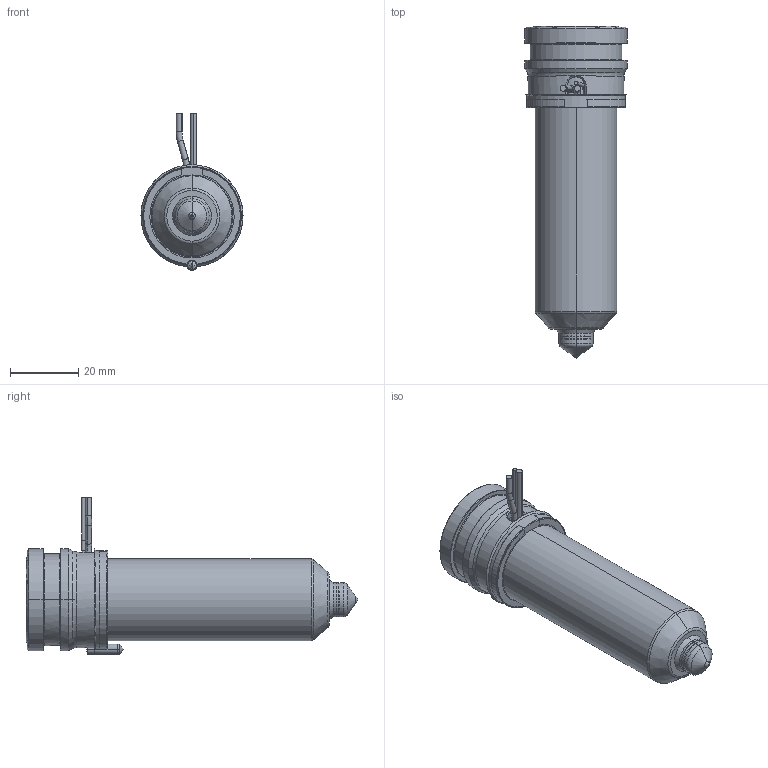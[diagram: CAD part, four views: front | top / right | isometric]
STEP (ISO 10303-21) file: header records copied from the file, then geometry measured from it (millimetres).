
FILE_DESCRIPTION((''),'2;1');
FILE_NAME('MPN-10-29-TX10-076-A','2026-02-11T11:16:55',('UVRWS'),('Thermoplay S.p.A.'),'CREO PARAMETRIC BY PTC INC, 2023494','CREO PARAMETRIC BY PTC INC, 2023494','');
FILE_SCHEMA(('CONFIG_CONTROL_DESIGN','SHAPE_APPEARANCE_LAYERS_GROUPS'));
Length unit declared in the file: millimetre
Products named in the file (1): MPN-10-29-TX10-076-A
Bounding box: 30 x 97.5 x 46 mm (x, y, z)
Volume: 31052.6 mm3; surface area: 30640.7 mm2
Topology: 2 solids, 3 shells, 551 faces, 1455 edges, 899 vertices
Faces by surface type: cylinder 180, plane 143, bspline 79, torus 68, cone 66, sphere 11, extrusion 4
Entity records: 29763 total; most frequent: CARTESIAN_POINT 13407, ORIENTED_EDGE 2894, DIRECTION 2641, EDGE_CURVE 1447, AXIS2_PLACEMENT_3D 1045, VERTEX_POINT 899, EDGE_LOOP 580, CIRCLE 576
